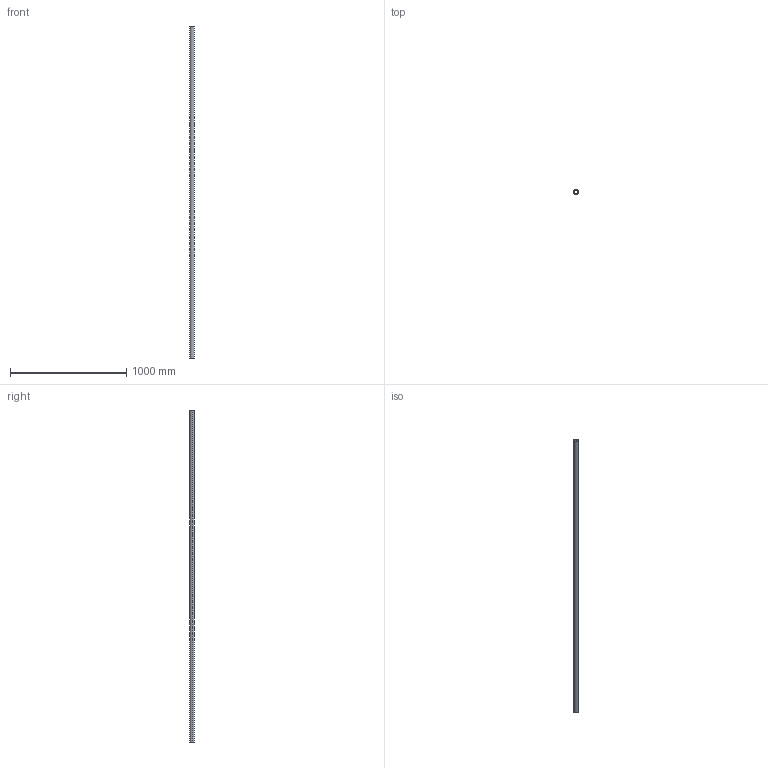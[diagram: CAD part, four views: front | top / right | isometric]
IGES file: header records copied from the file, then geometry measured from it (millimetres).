
Start section: SolidWorks IGES file using analytic representation for surfaces
Global section: file name: C:\Users\IanO\Desktop\L1771_v2\L1771.40_v2\L1771.40_v2_20230705_IGES\L1771.40-2850.igs; native system: SolidWorks 2019; preprocessor: SolidWorks 2019; author: IanO; date: 230705.161517; units: millimetre
Bounding box: 40 x 40 x 2850 mm (x, y, z)
Surface area: 610122.4 mm2 (no closed solid volume)
Topology: 0 solids, 0 shells, 6 faces, 272 edges, 272 vertices
Faces by surface type: revolution 4, bspline 2
